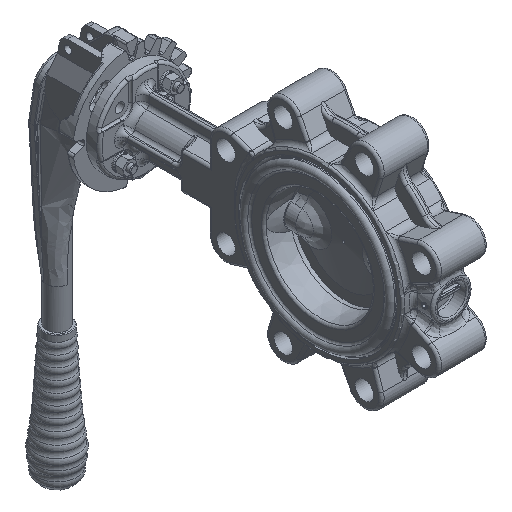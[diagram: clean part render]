
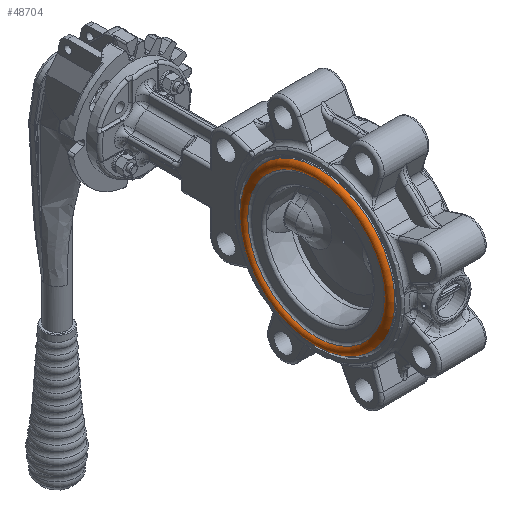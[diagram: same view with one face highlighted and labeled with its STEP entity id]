
A CAD part, isometric view. The second image highlights one B-rep face of the part: STEP entity #48704.
In plain terms, the highlighted toroidal (fillet/blend) face has major radius 54.75 mm and minor radius 3.25 mm.
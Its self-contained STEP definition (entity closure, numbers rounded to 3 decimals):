
#48673=CARTESIAN_POINT('',(-24.143,0.,51.814));
#48674=VERTEX_POINT('',#48673);
#48675=CARTESIAN_POINT('',(-24.143,0.,0.));
#48676=DIRECTION('',(-1.0,0.0,0.0));
#48677=DIRECTION('',(0.0,0.0,1.0));
#48678=AXIS2_PLACEMENT_3D('',#48675,#48676,#48677);
#48679=CIRCLE('',#48678,51.814);
#48680=EDGE_CURVE('',#48674,#48674,#48679,.T.);
#48685=CARTESIAN_POINT('',(-22.75,0.,0.));
#48686=DIRECTION('',(-1.0,0.0,0.0));
#48687=DIRECTION('',(0.0,0.0,1.0));
#48688=AXIS2_PLACEMENT_3D('',#48685,#48686,#48687);
#48689=TOROIDAL_SURFACE('',#48688,54.75,3.25);
#48690=ORIENTED_EDGE('',*,*,#48680,.F.);
#48691=EDGE_LOOP('',(#48690));
#48692=FACE_OUTER_BOUND('',#48691,.T.);
#48693=CARTESIAN_POINT('',(-22.75,0.,58.));
#48694=VERTEX_POINT('',#48693);
#48695=CARTESIAN_POINT('',(-22.75,0.,0.));
#48696=DIRECTION('',(-1.0,0.0,0.0));
#48697=DIRECTION('',(0.0,0.0,1.0));
#48698=AXIS2_PLACEMENT_3D('',#48695,#48696,#48697);
#48699=CIRCLE('',#48698,58.);
#48700=EDGE_CURVE('',#48694,#48694,#48699,.T.);
#48701=ORIENTED_EDGE('',*,*,#48700,.T.);
#48702=EDGE_LOOP('',(#48701));
#48703=FACE_BOUND('',#48702,.T.);
#48704=ADVANCED_FACE('',(#48692,#48703),#48689,.T.);
